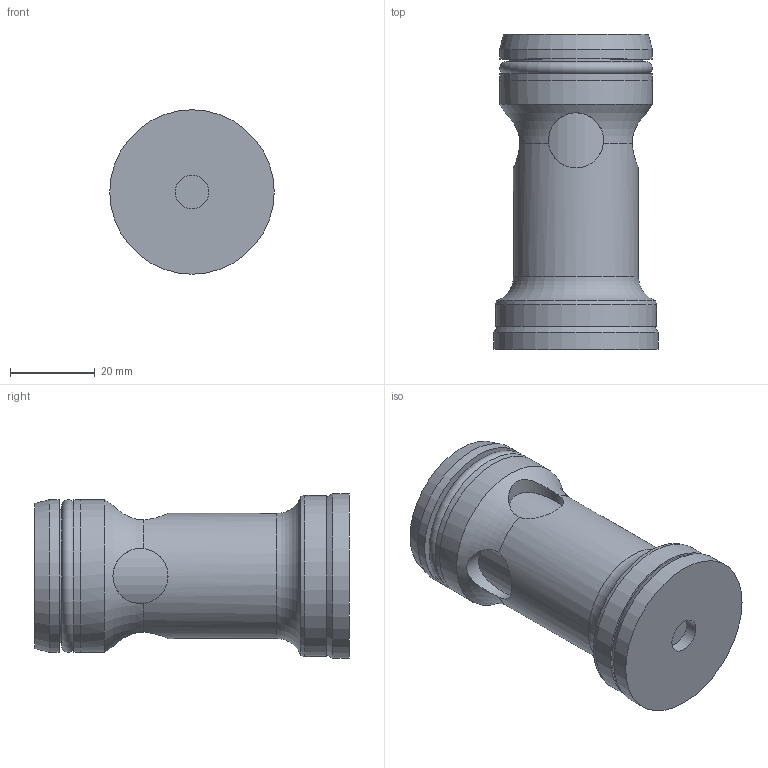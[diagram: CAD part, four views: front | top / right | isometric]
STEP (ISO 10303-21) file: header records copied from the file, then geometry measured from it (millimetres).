
FILE_DESCRIPTION(/* description */ (''),/* implementation_level */ '2;1');
FILE_NAME(/* name */ 'M-SR25插入式单向阀.prt.stp',/* time_stamp */ '2022-03-30T19:10:31+08:00',/* author */ (''),/* organization */ (''),/* preprocessor_version */ 'ST-DEVELOPER v16.7',/* originating_system */ 'SIEMENS PLM Software NX 12.0',/* authorisation */ '');
FILE_SCHEMA (('AUTOMOTIVE_DESIGN { 1 0 10303 214 3 1 1 1 }'));
Length unit declared in the file: millimetre
Products named in the file (1): M-SR25插入式单向阀
Bounding box: 38.8 x 74.3 x 38.8 mm (x, y, z)
Volume: 56440.8 mm3; surface area: 16750.3 mm2
Topology: 4 solids, 4 shells, 40 faces, 87 edges, 55 vertices
Faces by surface type: cylinder 17, plane 13, cone 7, torus 3
Full cylindrical faces by diameter (mm): 8 x1, 13 x4, 17.8 x1, 24 x1, 25 x1, 25.5 x1, 29.5 x1, 31.4 x2, 36 x3, 38 x1, 38.8 x1
Entity records: 1081 total; most frequent: CARTESIAN_POINT 308, DIRECTION 156, ORIENTED_EDGE 98, EDGE_LOOP 80, FACE_BOUND 79, AXIS2_PLACEMENT_3D 78, EDGE_CURVE 49, VERTEX_POINT 46
